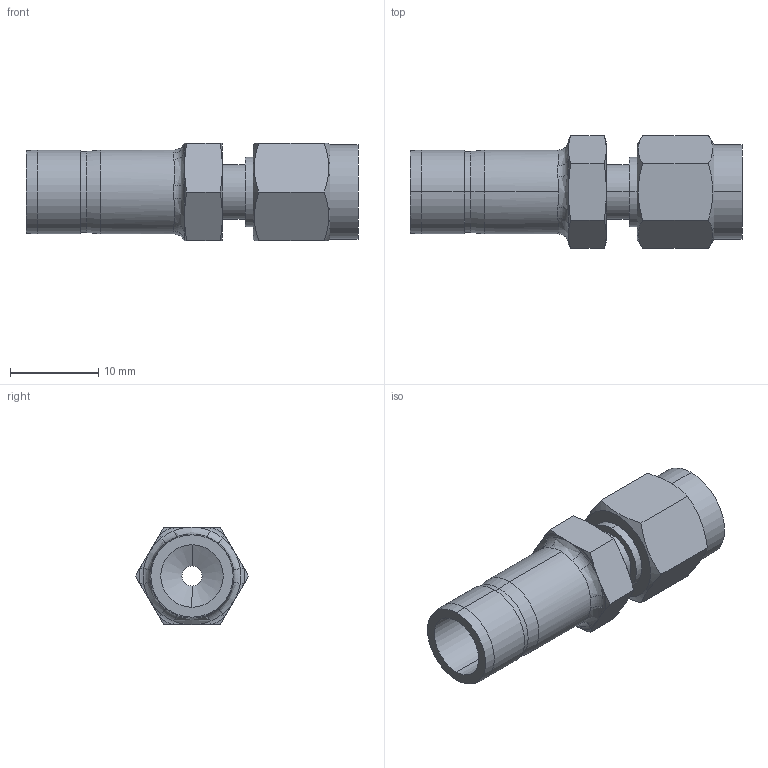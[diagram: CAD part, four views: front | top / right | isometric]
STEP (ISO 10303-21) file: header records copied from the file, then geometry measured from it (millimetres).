
FILE_DESCRIPTION (( 'STEP AP203' ), '1' );
FILE_NAME ('DRE02-06 SS.STEP', '2009-09-08T08:37:08', ( ' ' ), ( '' ), 'SwSTEP 2.0', 'SolidWorks 2008', '' );
FILE_SCHEMA (( 'CONFIG_CONTROL_DESIGN' ));
Length unit declared in the file: millimetre
Products named in the file (1): DRE02-06 SS
Bounding box: 37.7 x 12.83 x 11.11 mm (x, y, z)
Volume: 2199 mm3; surface area: 2140 mm2
Topology: 1 solids, 1 shells, 78 faces, 176 edges, 104 vertices
Faces by surface type: cone 24, plane 24, cylinder 18, bspline 6, torus 6
Entity records: 2537 total; most frequent: CARTESIAN_POINT 781, ORIENTED_EDGE 352, DIRECTION 348, EDGE_CURVE 176, AXIS2_PLACEMENT_3D 147, VERTEX_POINT 104, EDGE_LOOP 84, FACE_OUTER_BOUND 78
